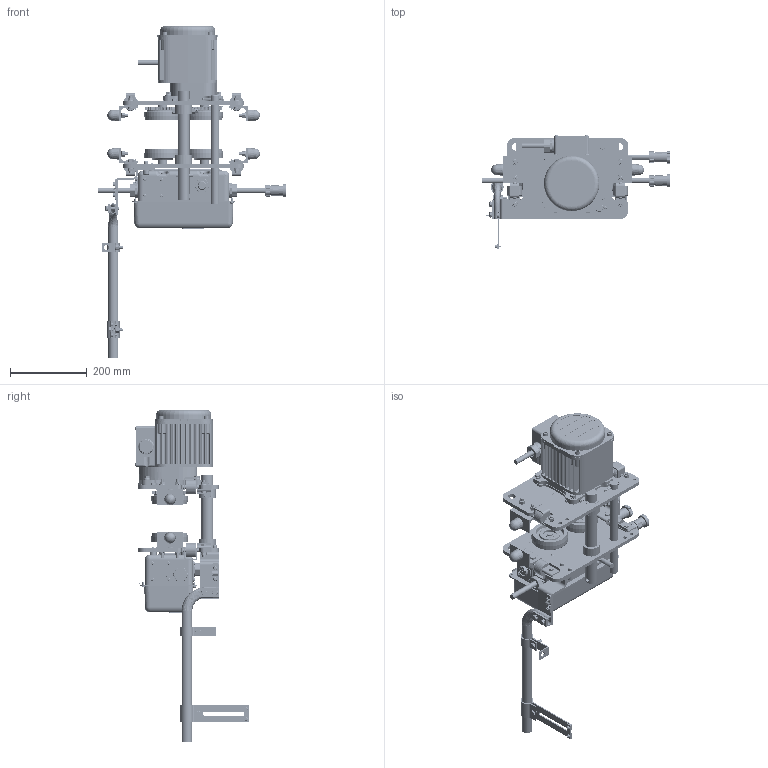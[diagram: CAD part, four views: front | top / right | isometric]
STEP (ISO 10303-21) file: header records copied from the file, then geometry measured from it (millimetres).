
FILE_DESCRIPTION (( 'STEP AP214' ), '1' );
FILE_NAME ('MR2010SD.STEP', '2026-08-06T20:49:00', ( '' ), ( '' ), 'SwSTEP 2.0', 'SolidWorks 2026', '' );
FILE_SCHEMA (( 'AUTOMOTIVE_DESIGN' ));
Length unit declared in the file: inch
Products named in the file (87): MR1DS9496; MSF115010_MSF115010; ECP6916AA; MR1DS9411; MR1DS9202; ECP5924AH; MS1102010; E6L614010S; MR1DS9325; MR1DS1481; hexagon slotted nut low_1 small_jis_T3P154020; MR1DS1211; MR1DS9248; M6FE010S9113; MS161010; MS1101010; MS104010; MR1DS1211_Reversed; MR2SHM10S9A7; 9091294_9091294; MS527010; MR1DS9493; ECP5924AD1; basic internal retaining ring_am_9047242; MS551010; hex cap screw_am_9093329; hex cap screw_am_9093330; ECP6914AA; T6G156020; E6F630010S; MR1DS1301; M6SE010S9101; 9012513; M6FE010S9114; MR2DI1768_DEFAULT; MR1DS9491; 9009432_9009432; single coil rectangular section spring washer_bsi_9012711; MR2DI1811; MR1DS1493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
Assembly tree (216 placements, depth 5):
  MR2010SD
    MR1DS5201
      MR1DS9201
      MR1DS9203  x2
      M6FE010S9113
    MR1DS5202
      MR1DS9202
      MR1DS9203  x2
      M6FE010S9114
    MSF115010_MSF115010
    MR1DS9634  x4
    hex cap screw_am_9093330  x8
    single coil rectangular section spring washer_bsi_9012711  x20
    hex nut style 1_am_9093424  x16
    MR1DS9631  x4
    MS006010  x4
    MR1DS1211_Reversed  x2
      MR1DS1211
      MR1DS9218
    MR1DS1211  x2
      MR1DS1211
      MR1DS9218
    MS1101010  x2
      M6SE010S9101
      6302Z BEARING
      basic internal retaining ring_am_9047242
    hex cap screw_am_9093329  x4
    MS1102010  x2
      M6SE010S9102
      6302Z BEARING
      basic internal retaining ring_am_9047242
    MR1DS9131_MR1DS9131
    9009446_9009446  x2
    MS161010
    T6G156020
    9009432_9009432
    hexagon slotted nut low_1 small_jis_T3P154020
    split pin (metric) as_9009414-5
    9047115_9047115  x4
    MS104010  x4
    6077801
      MR1DS93112
      MR1DS9324
      MR1DS9325
      MR1DS1301
      90912134  x4
      MS554010  x4
    9012513  x4
    hex cap screw_am_9093328  x4
    MR1DS9248
    70131XX_For (N)ER2M (7013102)
      MR1DS9411
      MR1DS9401_1 - 8 TON & 10 L TON
      MR1DS9421
      MS554010  x12
      MR2DI2811
        ECP5924AH
        MS527010
        MR2DI1811
        ES558003  x4
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Bounding box: 488.85 x 294.68 x 862.86 mm (x, y, z)
Volume: 5613716.5 mm3; surface area: 1877222.5 mm2
Topology: 252 solids, 268 shells, 9649 faces, 25267 edges, 16467 vertices
Faces by surface type: plane 5088, cylinder 2664, cone 951, bspline 464, torus 458, sphere 24
Entity records: 167972 total; most frequent: CARTESIAN_POINT 64290, ORIENTED_EDGE 21132, DIRECTION 19960, EDGE_CURVE 10568, AXIS2_PLACEMENT_3D 7297, VERTEX_POINT 7129, LINE 5366, VECTOR 5366
